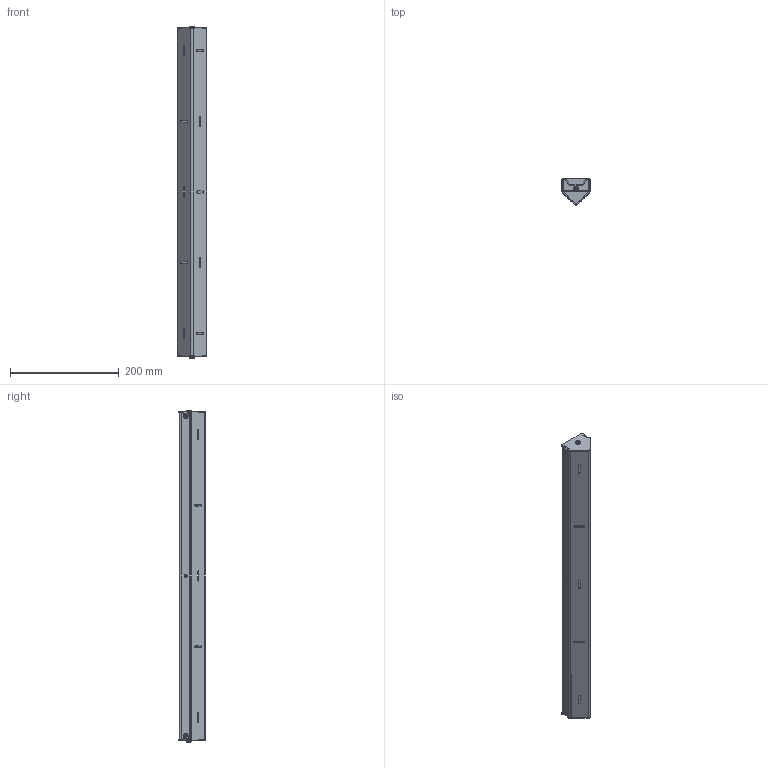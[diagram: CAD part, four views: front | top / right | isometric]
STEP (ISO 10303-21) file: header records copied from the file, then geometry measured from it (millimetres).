
FILE_DESCRIPTION (( 'STEP AP214' ), '1' );
FILE_NAME ('LAMP.SANILINEAR-02.STEP', '2020-06-27T10:05:41', ( '' ), ( '' ), 'SwSTEP 2.0', 'SolidWorks 2020', '' );
FILE_SCHEMA (( 'AUTOMOTIVE_DESIGN' ));
Length unit declared in the file: millimetre
Products named in the file (9): Connettore Jack; MEC437.01.00 Anima; DDS1104; LAMP.SANILINEAR-02; ZZ.SCAPADDS1104; MEC437.04.00 Supporto 45°; MEC437.02.00 Supporto; MEC437.05.00 Tappo 45°; Vite croce testa svasata M3x12_PreviewCfg
Assembly tree (15 placements, depth 2):
  LAMP.SANILINEAR-02
    MEC437.02.00 Supporto
    MEC437.01.00 Anima
    MEC437.04.00 Supporto 45°
    MEC437.05.00 Tappo 45°  x2
    DDS1104
    Vite croce testa svasata M3x12_PreviewCfg  x6
    Connettore Jack  x2
    ZZ.SCAPADDS1104
Bounding box: 55 x 47.9 x 610.4 mm (x, y, z)
Volume: 377977.5 mm3; surface area: 421998.8 mm2
Topology: 410 solids, 410 shells, 3448 faces, 7437 edges, 4872 vertices
Faces by surface type: plane 2391, cylinder 973, bspline 56, cone 16, sphere 8, torus 4
Entity records: 97214 total; most frequent: CARTESIAN_POINT 18925, DIRECTION 14839, ORIENTED_EDGE 13778, EDGE_CURVE 6889, AXIS2_PLACEMENT_3D 5039, LINE 4761, VECTOR 4761, VERTEX_POINT 4539
